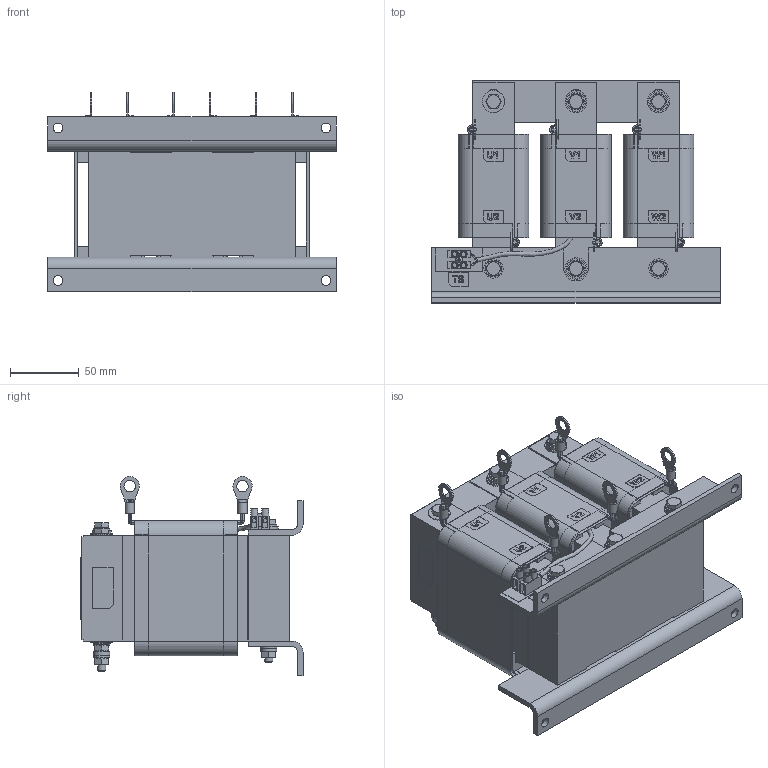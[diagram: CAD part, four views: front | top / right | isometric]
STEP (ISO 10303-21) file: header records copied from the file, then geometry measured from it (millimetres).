
FILE_DESCRIPTION(/* description */ ('raw material description'),/* implementation_level */ '2;1');
FILE_NAME(/* name */ 'C:\Users\Erika.Jenzer\Desktop\Neuer Ordner\FN5060HV-30-99.stp',/* time_stamp */ '2019-11-18T13:01:51+01:00',/* author */ ('erika.jenzer'),/* organization */ ('Schaffner EMV AG'),/* preprocessor_version */ 'ST-DEVELOPER v16.5',/* originating_system */ 'Autodesk Inventor 2017',/* authorisation */ '');
FILE_SCHEMA (('AUTOMOTIVE_DESIGN { 1 0 10303 214 3 1 1 }'));
Products named in the file (1): FN5060HV-30-99
Bounding box: 210 x 161.5 x 144.72 mm (x, y, z)
Volume: 1697418 mm3; surface area: 418811.5 mm2
Topology: 7 solids, 20 shells, 1837 faces, 4864 edges, 3162 vertices
Faces by surface type: plane 1118, cylinder 434, bspline 138, cone 80, torus 66, sphere 1
Full cylindrical faces by diameter (mm): 0.01 x3, 1 x2, 2 x2, 2.5 x1, 2.8 x5, 3 x1, 3.4 x4, 4.5 x6, 6 x13, 6.1 x6, 6.4 x13, 6.7 x6, 7 x4, 7.6 x5, 7.8 x10, 8 x6, 8.4 x9, 8.7 x6, 12 x11, 13 x1, 14 x5, 16 x5
Entity records: 60332 total; most frequent: CARTESIAN_POINT 14325, ORIENTED_EDGE 9268, DIRECTION 8743, EDGE_CURVE 4627, VERTEX_POINT 3108, AXIS2_PLACEMENT_3D 2921, LINE 2901, VECTOR 2901
